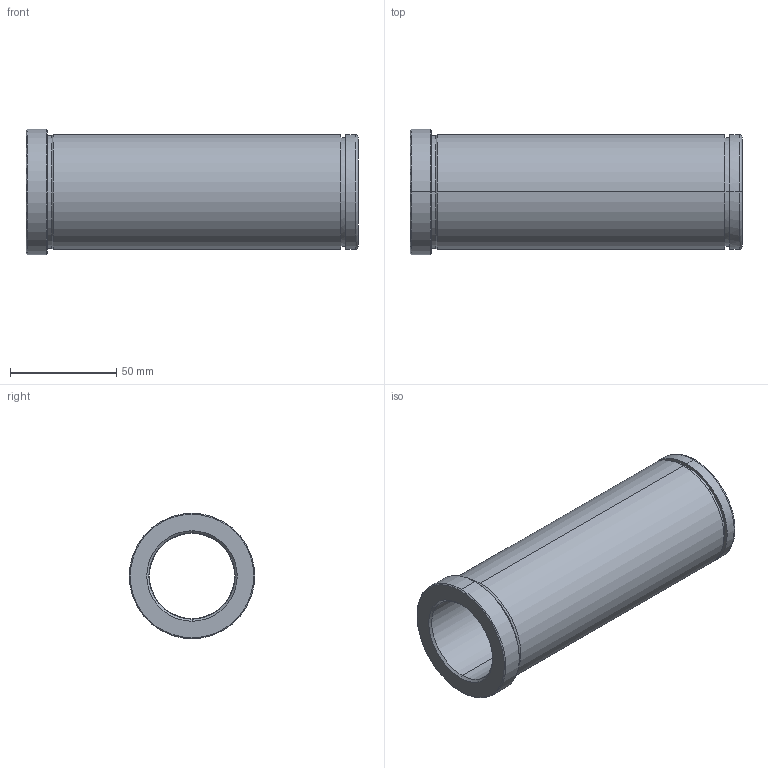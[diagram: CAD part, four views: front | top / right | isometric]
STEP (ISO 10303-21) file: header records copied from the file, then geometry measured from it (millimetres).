
FILE_DESCRIPTION(('CATIA V5 STEP Exchange'),'2;1');
FILE_NAME('C:\Users\Utente\Desktop\IO LAVORO\3D X SITO CF\X SITO\PLASTICA\553\553-40X156.stp','2021-06-03T18:23:36+00:00',('none'),('none'),'CATIA Version 5 Release 20 GA (IN-10)','CATIA V5 STEP AP203','none');
FILE_SCHEMA(('CONFIG_CONTROL_DESIGN'));
Length unit declared in the file: millimetre
Products named in the file (1): 553-40X156
Bounding box: 156 x 59 x 59 mm (x, y, z)
Volume: 163339.2 mm3; surface area: 49413.8 mm2
Topology: 1 solids, 1 shells, 32 faces, 102 edges, 76 vertices
Faces by surface type: cylinder 14, cone 8, plane 6, torus 4
Entity records: 1334 total; most frequent: CARTESIAN_POINT 389, ORIENTED_EDGE 204, DIRECTION 152, EDGE_CURVE 102, AXIS2_PLACEMENT_3D 99, VERTEX_POINT 76, CIRCLE 66, EDGE_LOOP 38
